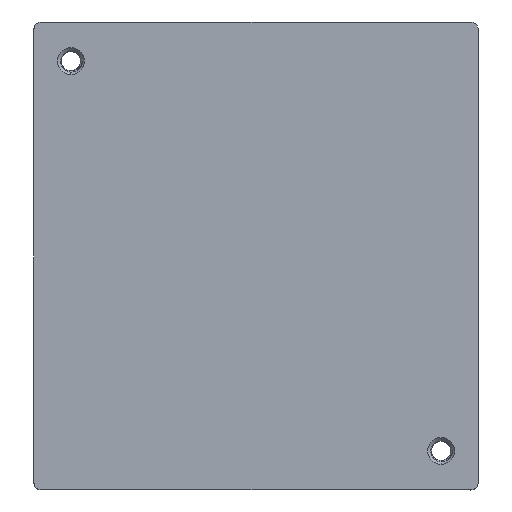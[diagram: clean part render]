
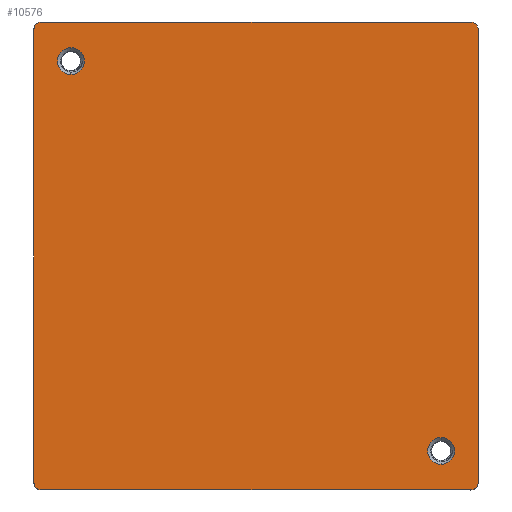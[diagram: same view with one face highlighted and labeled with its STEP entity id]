
A CAD part, front view. The second image highlights one B-rep face of the part: STEP entity #10576.
In plain terms, the highlighted planar face has unit normal (0, -1, 0).
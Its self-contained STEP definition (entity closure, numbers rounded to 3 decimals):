
#236 = DIRECTION ( 'NONE',  ( -1., 0., 0. ) ) ;
#362 = CARTESIAN_POINT ( 'NONE',  ( 28.95, 0., -29.5 ) ) ;
#1224 = EDGE_CURVE ( 'NONE', #17152, #35423, #37814, .T. ) ;
#1488 = AXIS2_PLACEMENT_3D ( 'NONE', #3850, #3212, #17383 ) ;
#2173 = ORIENTED_EDGE ( 'NONE', *, *, #24486, .F. ) ;
#2588 = DIRECTION ( 'NONE',  ( 0., -1., 0. ) ) ;
#2783 = DIRECTION ( 'NONE',  ( 0., 1., 0. ) ) ;
#2802 = EDGE_CURVE ( 'NONE', #25618, #23656, #19391, .T. ) ;
#3112 = DIRECTION ( 'NONE',  ( 0., 0., 1. ) ) ;
#3212 = DIRECTION ( 'NONE',  ( 0., 1., 0. ) ) ;
#3378 = DIRECTION ( 'NONE',  ( 0., 0., 1. ) ) ;
#3850 = CARTESIAN_POINT ( 'NONE',  ( -24.13, 0., 25.4 ) ) ;
#4024 = DIRECTION ( 'NONE',  ( 0., 1., 0. ) ) ;
#4310 = VERTEX_POINT ( 'NONE', #362 ) ;
#6005 = LINE ( 'NONE', #40332, #41179 ) ;
#6271 = CARTESIAN_POINT ( 'NONE',  ( -24.13, 0., 22.225 ) ) ;
#6705 = PLANE ( 'NONE',  #36797 ) ;
#7015 = EDGE_CURVE ( 'NONE', #28586, #4310, #36094, .T. ) ;
#8624 = DIRECTION ( 'NONE',  ( 0., 1., 0. ) ) ;
#8913 = EDGE_CURVE ( 'NONE', #12564, #28530, #9242, .T. ) ;
#9139 = VECTOR ( 'NONE', #30421, 1000. ) ;
#9242 = CIRCLE ( 'NONE', #1488, 1.75 ) ;
#9253 = CARTESIAN_POINT ( 'NONE',  ( 28.95, 0., 29.5 ) ) ;
#9449 = CIRCLE ( 'NONE', #39883, 1. ) ;
#9748 = CARTESIAN_POINT ( 'NONE',  ( -24.13, 0., 23.65 ) ) ;
#10224 = CIRCLE ( 'NONE', #16607, 1. ) ;
#10576 = ADVANCED_FACE ( 'NONE', ( #43700, #30874, #26683 ), #6705, .F. ) ;
#10870 = DIRECTION ( 'NONE',  ( 0., 0., -1. ) ) ;
#11462 = CARTESIAN_POINT ( 'NONE',  ( 27.95, 0., -29.5 ) ) ;
#11571 = EDGE_CURVE ( 'NONE', #35229, #20315, #10224, .T. ) ;
#12151 = CARTESIAN_POINT ( 'NONE',  ( -24.13, 0., 25.4 ) ) ;
#12564 = VERTEX_POINT ( 'NONE', #9748 ) ;
#12768 = CIRCLE ( 'NONE', #13505, 1.75 ) ;
#13404 = ORIENTED_EDGE ( 'NONE', *, *, #13588, .F. ) ;
#13505 = AXIS2_PLACEMENT_3D ( 'NONE', #33150, #2783, #17160 ) ;
#13574 = DIRECTION ( 'NONE',  ( 0., 1., 0. ) ) ;
#13588 = EDGE_CURVE ( 'NONE', #28586, #19966, #17058, .T. ) ;
#14137 = DIRECTION ( 'NONE',  ( 0., -1., 0. ) ) ;
#14174 = ORIENTED_EDGE ( 'NONE', *, *, #1224, .T. ) ;
#14486 = AXIS2_PLACEMENT_3D ( 'NONE', #12151, #8624, #40231 ) ;
#14648 = CARTESIAN_POINT ( 'NONE',  ( 28.95, 0., -30.5 ) ) ;
#15444 = EDGE_LOOP ( 'NONE', ( #34493, #34900 ) ) ;
#16607 = AXIS2_PLACEMENT_3D ( 'NONE', #28977, #22981, #22748 ) ;
#17058 = LINE ( 'NONE', #30589, #27395 ) ;
#17152 = VERTEX_POINT ( 'NONE', #33916 ) ;
#17160 = DIRECTION ( 'NONE',  ( 0., 0., 1. ) ) ;
#17277 = AXIS2_PLACEMENT_3D ( 'NONE', #19396, #2588, #36240 ) ;
#17383 = DIRECTION ( 'NONE',  ( 0., 0., 1. ) ) ;
#17808 = CARTESIAN_POINT ( 'NONE',  ( 24.13, 0., -27.15 ) ) ;
#18419 = AXIS2_PLACEMENT_3D ( 'NONE', #11462, #14137, #41607 ) ;
#19391 = CIRCLE ( 'NONE', #17277, 1. ) ;
#19396 = CARTESIAN_POINT ( 'NONE',  ( -27.95, 0., 29.5 ) ) ;
#19430 = ORIENTED_EDGE ( 'NONE', *, *, #7015, .T. ) ;
#19439 = EDGE_CURVE ( 'NONE', #35423, #17152, #12768, .T. ) ;
#19966 = VERTEX_POINT ( 'NONE', #34727 ) ;
#20137 = EDGE_LOOP ( 'NONE', ( #21439, #35209, #13404, #19430, #31211, #38213, #2173, #35556 ) ) ;
#20315 = VERTEX_POINT ( 'NONE', #21573 ) ;
#20863 = EDGE_CURVE ( 'NONE', #24474, #23656, #6005, .T. ) ;
#21095 = CARTESIAN_POINT ( 'NONE',  ( 24.13, 0., -25.4 ) ) ;
#21439 = ORIENTED_EDGE ( 'NONE', *, *, #20863, .F. ) ;
#21573 = CARTESIAN_POINT ( 'NONE',  ( 27.95, 0., 30.5 ) ) ;
#22748 = DIRECTION ( 'NONE',  ( 0., 0., 1. ) ) ;
#22908 = LINE ( 'NONE', #36408, #9139 ) ;
#22942 = ORIENTED_EDGE ( 'NONE', *, *, #19439, .T. ) ;
#22981 = DIRECTION ( 'NONE',  ( 0., -1., 0. ) ) ;
#23656 = VERTEX_POINT ( 'NONE', #27704 ) ;
#24223 = DIRECTION ( 'NONE',  ( 0., 0., 1. ) ) ;
#24474 = VERTEX_POINT ( 'NONE', #39738 ) ;
#24486 = EDGE_CURVE ( 'NONE', #25618, #20315, #22908, .T. ) ;
#25618 = VERTEX_POINT ( 'NONE', #37222 ) ;
#26131 = DIRECTION ( 'NONE',  ( 0., -1., 0. ) ) ;
#26683 = FACE_BOUND ( 'NONE', #40667, .T. ) ;
#27159 = EDGE_CURVE ( 'NONE', #28530, #12564, #42738, .T. ) ;
#27226 = AXIS2_PLACEMENT_3D ( 'NONE', #21095, #4024, #24223 ) ;
#27395 = VECTOR ( 'NONE', #236, 1000. ) ;
#27704 = CARTESIAN_POINT ( 'NONE',  ( -28.95, 0., 29.5 ) ) ;
#28530 = VERTEX_POINT ( 'NONE', #31420 ) ;
#28586 = VERTEX_POINT ( 'NONE', #32954 ) ;
#28977 = CARTESIAN_POINT ( 'NONE',  ( 27.95, 0., 29.5 ) ) ;
#30421 = DIRECTION ( 'NONE',  ( 1., 0., 0. ) ) ;
#30589 = CARTESIAN_POINT ( 'NONE',  ( -28.95, 0., -30.5 ) ) ;
#30874 = FACE_OUTER_BOUND ( 'NONE', #20137, .T. ) ;
#31069 = VECTOR ( 'NONE', #10870, 1000. ) ;
#31211 = ORIENTED_EDGE ( 'NONE', *, *, #38788, .F. ) ;
#31420 = CARTESIAN_POINT ( 'NONE',  ( -24.13, 0., 27.15 ) ) ;
#31737 = EDGE_CURVE ( 'NONE', #24474, #19966, #9449, .T. ) ;
#32954 = CARTESIAN_POINT ( 'NONE',  ( 27.95, 0., -30.5 ) ) ;
#33150 = CARTESIAN_POINT ( 'NONE',  ( 24.13, 0., -25.4 ) ) ;
#33916 = CARTESIAN_POINT ( 'NONE',  ( 24.13, 0., -23.65 ) ) ;
#34493 = ORIENTED_EDGE ( 'NONE', *, *, #8913, .T. ) ;
#34727 = CARTESIAN_POINT ( 'NONE',  ( -27.95, 0., -30.5 ) ) ;
#34900 = ORIENTED_EDGE ( 'NONE', *, *, #27159, .T. ) ;
#35209 = ORIENTED_EDGE ( 'NONE', *, *, #31737, .T. ) ;
#35229 = VERTEX_POINT ( 'NONE', #9253 ) ;
#35423 = VERTEX_POINT ( 'NONE', #17808 ) ;
#35556 = ORIENTED_EDGE ( 'NONE', *, *, #2802, .T. ) ;
#36094 = CIRCLE ( 'NONE', #18419, 1. ) ;
#36240 = DIRECTION ( 'NONE',  ( 0., 0., 1. ) ) ;
#36408 = CARTESIAN_POINT ( 'NONE',  ( -28.95, 0., 30.5 ) ) ;
#36736 = CARTESIAN_POINT ( 'NONE',  ( -27.95, 0., -29.5 ) ) ;
#36797 = AXIS2_PLACEMENT_3D ( 'NONE', #6271, #13574, #3378 ) ;
#37222 = CARTESIAN_POINT ( 'NONE',  ( -27.95, 0., 30.5 ) ) ;
#37814 = CIRCLE ( 'NONE', #27226, 1.75 ) ;
#38213 = ORIENTED_EDGE ( 'NONE', *, *, #11571, .T. ) ;
#38788 = EDGE_CURVE ( 'NONE', #35229, #4310, #41253, .T. ) ;
#39738 = CARTESIAN_POINT ( 'NONE',  ( -28.95, 0., -29.5 ) ) ;
#39883 = AXIS2_PLACEMENT_3D ( 'NONE', #36736, #26131, #43377 ) ;
#40231 = DIRECTION ( 'NONE',  ( 0., 0., 1. ) ) ;
#40332 = CARTESIAN_POINT ( 'NONE',  ( -28.95, 0., -30.5 ) ) ;
#40667 = EDGE_LOOP ( 'NONE', ( #22942, #14174 ) ) ;
#41179 = VECTOR ( 'NONE', #3112, 1000. ) ;
#41253 = LINE ( 'NONE', #14648, #31069 ) ;
#41607 = DIRECTION ( 'NONE',  ( 0., 0., 1. ) ) ;
#42738 = CIRCLE ( 'NONE', #14486, 1.75 ) ;
#43377 = DIRECTION ( 'NONE',  ( 0., 0., 1. ) ) ;
#43700 = FACE_BOUND ( 'NONE', #15444, .T. ) ;
